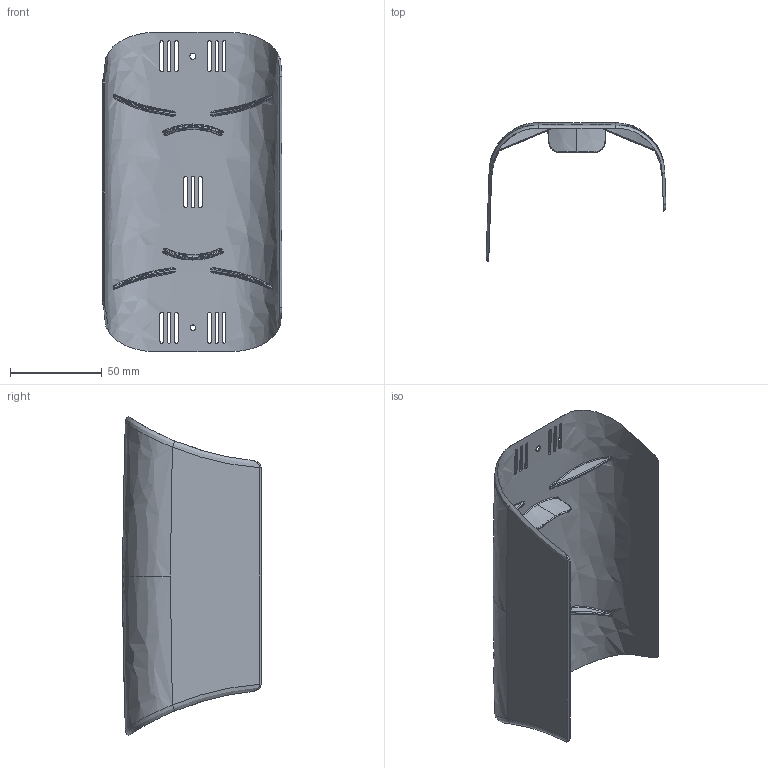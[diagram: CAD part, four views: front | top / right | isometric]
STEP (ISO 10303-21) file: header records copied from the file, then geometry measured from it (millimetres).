
FILE_DESCRIPTION (( 'STEP AP214' ), '1' );
FILE_NAME ('BROV2-HEAVY-P-FAIRING-X1G.STEP', '2018-06-19T21:40:49', ( '' ), ( '' ), 'SwSTEP 2.0', 'SolidWorks 2016', '' );
FILE_SCHEMA (( 'AUTOMOTIVE_DESIGN' ));
Length unit declared in the file: millimetre
Products named in the file (1): BROV2-HEAVY-P-FAIRING-X1G
Bounding box: 97.91 x 75.5 x 173.65 mm (x, y, z)
Volume: 44362.2 mm3; surface area: 62923.1 mm2
Topology: 1 solids, 1 shells, 329 faces, 799 edges, 476 vertices
Faces by surface type: bspline 186, cone 80, plane 44, cylinder 13, torus 6
Entity records: 19228 total; most frequent: CARTESIAN_POINT 13192, ORIENTED_EDGE 1594, EDGE_CURVE 797, DIRECTION 758, VERTEX_POINT 476, B_SPLINE_CURVE_WITH_KNOTS 421, EDGE_LOOP 369, ADVANCED_FACE 329
